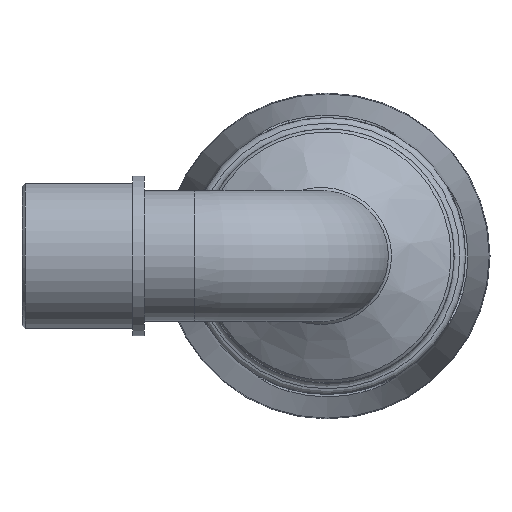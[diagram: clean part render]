
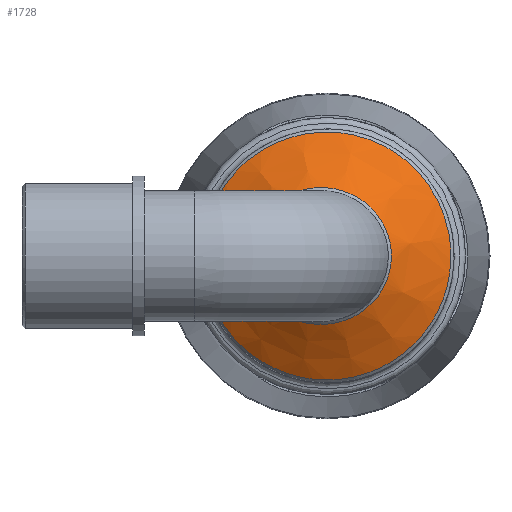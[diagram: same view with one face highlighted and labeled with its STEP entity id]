
A CAD part, left-side view. The second image highlights one B-rep face of the part: STEP entity #1728.
In plain terms, the highlighted free-form (B-spline) face has degree [3, 3] with [4, 17] control points.
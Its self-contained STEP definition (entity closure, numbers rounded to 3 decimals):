
#148=LINE('',#2713,#229);
#229=VECTOR('',#2045,7.603);
#311=FACE_OUTER_BOUND('',#421,.T.);
#421=EDGE_LOOP('',(#1129,#1130,#1131,#1132));
#558=B_SPLINE_CURVE_WITH_KNOTS('',3,(#2628,#2629,#2630,#2631,#2632,#2633,
#2634,#2635,#2636,#2637,#2638,#2639,#2640,#2641,#2642,#2643),
 .UNSPECIFIED.,.T.,.F.,(4,1,1,1,1,1,1,1,1,1,1,1,1,4),(-3.142,
-2.917,-2.693,-2.244,-1.346,
-0.748,-0.449,0.15,0.449,
0.898,1.346,2.244,2.693,3.142),
 .UNSPECIFIED.);
#559=B_SPLINE_CURVE_WITH_KNOTS('',3,(#2714,#2715,#2716,#2717,#2718,#2719,
#2720,#2721,#2722,#2723,#2724,#2725,#2726,#2727,#2728,#2729,#2730),
 .UNSPECIFIED.,.T.,.F.,(4,1,1,1,1,1,1,1,1,1,1,1,1,1,4),(1.571,
2.02,2.468,2.917,3.366,3.665,
4.264,4.563,5.161,5.61,6.059,
6.508,6.956,7.405,7.854),
 .UNSPECIFIED.);
#720=VERTEX_POINT('',#2609);
#722=VERTEX_POINT('',#2712);
#883=EDGE_CURVE('',#720,#720,#558,.T.);
#884=EDGE_CURVE('',#722,#720,#148,.T.);
#885=EDGE_CURVE('',#722,#722,#559,.T.);
#1129=ORIENTED_EDGE('',*,*,#883,.F.);
#1130=ORIENTED_EDGE('',*,*,#884,.F.);
#1131=ORIENTED_EDGE('',*,*,#885,.F.);
#1132=ORIENTED_EDGE('',*,*,#884,.T.);
#1614=B_SPLINE_SURFACE_WITH_KNOTS('',3,3,((#2644,#2645,#2646,#2647,#2648,
#2649,#2650,#2651,#2652,#2653,#2654,#2655,#2656,#2657,#2658,#2659,#2660),
(#2661,#2662,#2663,#2664,#2665,#2666,#2667,#2668,#2669,#2670,#2671,#2672,
#2673,#2674,#2675,#2676,#2677),(#2678,#2679,#2680,#2681,#2682,#2683,#2684,
#2685,#2686,#2687,#2688,#2689,#2690,#2691,#2692,#2693,#2694),(#2695,#2696,
#2697,#2698,#2699,#2700,#2701,#2702,#2703,#2704,#2705,#2706,#2707,#2708,
#2709,#2710,#2711)),.UNSPECIFIED.,.F.,.T.,.F.,(4,4),(4,1,1,1,1,1,1,1,1,
1,1,1,1,1,4),(0.05,0.961),(-9.425,
-8.976,-8.527,-8.078,-7.63,
-7.031,-6.732,-6.433,-5.834,
-5.386,-4.937,-4.488,-4.039,
-3.59,-3.142),.UNSPECIFIED.);
#1728=ADVANCED_FACE('',(#311),#1614,.T.);
#2045=DIRECTION('',(-0.58,-0.814,0.));
#2609=CARTESIAN_POINT('',(14.398,11.745,0.));
#2628=CARTESIAN_POINT('Ctrl Pts',(14.397,11.745,0.002));
#2629=CARTESIAN_POINT('Ctrl Pts',(14.398,11.746,-0.756));
#2630=CARTESIAN_POINT('Ctrl Pts',(14.369,11.533,-2.277));
#2631=CARTESIAN_POINT('Ctrl Pts',(14.24,10.349,-5.087));
#2632=CARTESIAN_POINT('Ctrl Pts',(13.968,6.701,-9.112));
#2633=CARTESIAN_POINT('Ctrl Pts',(13.877,-0.283,-10.776));
#2634=CARTESIAN_POINT('Ctrl Pts',(13.866,-5.943,-7.81));
#2635=CARTESIAN_POINT('Ctrl Pts',(13.863,-8.965,-3.642));
#2636=CARTESIAN_POINT('Ctrl Pts',(13.863,-9.639,0.561));
#2637=CARTESIAN_POINT('Ctrl Pts',(13.864,-8.193,4.97));
#2638=CARTESIAN_POINT('Ctrl Pts',(13.866,-5.496,8.138));
#2639=CARTESIAN_POINT('Ctrl Pts',(13.884,0.27,10.648));
#2640=CARTESIAN_POINT('Ctrl Pts',(13.967,6.689,9.106));
#2641=CARTESIAN_POINT('Ctrl Pts',(14.28,10.879,4.519));
#2642=CARTESIAN_POINT('Ctrl Pts',(14.396,11.743,1.516));
#2643=CARTESIAN_POINT('Ctrl Pts',(14.397,11.745,0.002));
#2644=CARTESIAN_POINT('Ctrl Pts',(18.831,17.964,0.));
#2645=CARTESIAN_POINT('Ctrl Pts',(18.831,17.964,2.686));
#2646=CARTESIAN_POINT('Ctrl Pts',(18.827,16.724,8.059));
#2647=CARTESIAN_POINT('Ctrl Pts',(18.821,11.548,14.492));
#2648=CARTESIAN_POINT('Ctrl Pts',(18.82,4.116,18.037));
#2649=CARTESIAN_POINT('Ctrl Pts',(18.82,-5.035,18.03));
#2650=CARTESIAN_POINT('Ctrl Pts',(18.821,-12.288,13.833));
#2651=CARTESIAN_POINT('Ctrl Pts',(18.821,-16.329,7.863));
#2652=CARTESIAN_POINT('Ctrl Pts',(18.821,-18.471,0.981));
#2653=CARTESIAN_POINT('Ctrl Pts',(18.821,-17.221,-7.302));
#2654=CARTESIAN_POINT('Ctrl Pts',(18.821,-11.517,-14.444));
#2655=CARTESIAN_POINT('Ctrl Pts',(18.82,-4.118,-18.024));
#2656=CARTESIAN_POINT('Ctrl Pts',(18.82,4.115,-18.04));
#2657=CARTESIAN_POINT('Ctrl Pts',(18.821,11.549,-14.491));
#2658=CARTESIAN_POINT('Ctrl Pts',(18.827,16.723,-8.059));
#2659=CARTESIAN_POINT('Ctrl Pts',(18.831,17.964,-2.686));
#2660=CARTESIAN_POINT('Ctrl Pts',(18.831,17.964,0.));
#2661=CARTESIAN_POINT('Ctrl Pts',(17.239,15.731,0.));
#2662=CARTESIAN_POINT('Ctrl Pts',(17.239,15.731,2.35));
#2663=CARTESIAN_POINT('Ctrl Pts',(17.209,14.554,7.05));
#2664=CARTESIAN_POINT('Ctrl Pts',(17.168,9.904,12.474));
#2665=CARTESIAN_POINT('Ctrl Pts',(17.159,3.485,15.354));
#2666=CARTESIAN_POINT('Ctrl Pts',(17.16,-4.27,15.226));
#2667=CARTESIAN_POINT('Ctrl Pts',(17.165,-10.346,11.639));
#2668=CARTESIAN_POINT('Ctrl Pts',(17.168,-13.721,6.606));
#2669=CARTESIAN_POINT('Ctrl Pts',(17.169,-15.507,0.822));
#2670=CARTESIAN_POINT('Ctrl Pts',(17.168,-14.466,-6.128));
#2671=CARTESIAN_POINT('Ctrl Pts',(17.165,-9.702,-12.157));
#2672=CARTESIAN_POINT('Ctrl Pts',(17.16,-3.493,-15.233));
#2673=CARTESIAN_POINT('Ctrl Pts',(17.159,3.484,-15.357));
#2674=CARTESIAN_POINT('Ctrl Pts',(17.168,9.904,-12.473));
#2675=CARTESIAN_POINT('Ctrl Pts',(17.209,14.554,-7.051));
#2676=CARTESIAN_POINT('Ctrl Pts',(17.239,15.731,-2.35));
#2677=CARTESIAN_POINT('Ctrl Pts',(17.239,15.731,0.));
#2678=CARTESIAN_POINT('Ctrl Pts',(15.647,13.498,0.));
#2679=CARTESIAN_POINT('Ctrl Pts',(15.647,13.499,2.014));
#2680=CARTESIAN_POINT('Ctrl Pts',(15.591,12.384,6.042));
#2681=CARTESIAN_POINT('Ctrl Pts',(15.515,8.259,10.456));
#2682=CARTESIAN_POINT('Ctrl Pts',(15.498,2.853,12.672));
#2683=CARTESIAN_POINT('Ctrl Pts',(15.501,-3.505,12.422));
#2684=CARTESIAN_POINT('Ctrl Pts',(15.51,-8.403,9.444));
#2685=CARTESIAN_POINT('Ctrl Pts',(15.514,-11.113,5.348));
#2686=CARTESIAN_POINT('Ctrl Pts',(15.517,-12.543,0.663));
#2687=CARTESIAN_POINT('Ctrl Pts',(15.515,-11.711,-4.955));
#2688=CARTESIAN_POINT('Ctrl Pts',(15.509,-7.887,-9.869));
#2689=CARTESIAN_POINT('Ctrl Pts',(15.5,-2.869,-12.443));
#2690=CARTESIAN_POINT('Ctrl Pts',(15.498,2.852,-12.674));
#2691=CARTESIAN_POINT('Ctrl Pts',(15.515,8.259,-10.456));
#2692=CARTESIAN_POINT('Ctrl Pts',(15.591,12.384,-6.042));
#2693=CARTESIAN_POINT('Ctrl Pts',(15.647,13.498,-2.014));
#2694=CARTESIAN_POINT('Ctrl Pts',(15.647,13.498,0.));
#2695=CARTESIAN_POINT('Ctrl Pts',(14.055,11.266,0.));
#2696=CARTESIAN_POINT('Ctrl Pts',(14.055,11.266,1.678));
#2697=CARTESIAN_POINT('Ctrl Pts',(13.973,10.214,5.033));
#2698=CARTESIAN_POINT('Ctrl Pts',(13.861,6.614,8.438));
#2699=CARTESIAN_POINT('Ctrl Pts',(13.837,2.221,9.99));
#2700=CARTESIAN_POINT('Ctrl Pts',(13.841,-2.74,9.618));
#2701=CARTESIAN_POINT('Ctrl Pts',(13.854,-6.461,7.249));
#2702=CARTESIAN_POINT('Ctrl Pts',(13.861,-8.505,4.091));
#2703=CARTESIAN_POINT('Ctrl Pts',(13.864,-9.578,0.505));
#2704=CARTESIAN_POINT('Ctrl Pts',(13.862,-8.955,-3.782));
#2705=CARTESIAN_POINT('Ctrl Pts',(13.853,-6.072,-7.582));
#2706=CARTESIAN_POINT('Ctrl Pts',(13.841,-2.244,-9.652));
#2707=CARTESIAN_POINT('Ctrl Pts',(13.837,2.22,-9.991));
#2708=CARTESIAN_POINT('Ctrl Pts',(13.862,6.615,-8.438));
#2709=CARTESIAN_POINT('Ctrl Pts',(13.973,10.214,-5.033));
#2710=CARTESIAN_POINT('Ctrl Pts',(14.055,11.266,-1.678));
#2711=CARTESIAN_POINT('Ctrl Pts',(14.055,11.266,0.));
#2712=CARTESIAN_POINT('',(18.811,17.936,0.));
#2713=CARTESIAN_POINT('',(19.093,18.33,0.));
#2714=CARTESIAN_POINT('Ctrl Pts',(18.811,17.937,0.));
#2715=CARTESIAN_POINT('Ctrl Pts',(18.811,17.936,2.683));
#2716=CARTESIAN_POINT('Ctrl Pts',(18.812,16.703,8.05));
#2717=CARTESIAN_POINT('Ctrl Pts',(18.814,11.543,14.48));
#2718=CARTESIAN_POINT('Ctrl Pts',(18.816,4.11,18.037));
#2719=CARTESIAN_POINT('Ctrl Pts',(18.818,-3.196,18.018));
#2720=CARTESIAN_POINT('Ctrl Pts',(18.82,-10.755,15.051));
#2721=CARTESIAN_POINT('Ctrl Pts',(18.821,-15.807,9.597));
#2722=CARTESIAN_POINT('Ctrl Pts',(18.821,-18.465,0.976));
#2723=CARTESIAN_POINT('Ctrl Pts',(18.821,-17.225,-7.298));
#2724=CARTESIAN_POINT('Ctrl Pts',(18.82,-11.515,-14.445));
#2725=CARTESIAN_POINT('Ctrl Pts',(18.819,-4.119,-18.02));
#2726=CARTESIAN_POINT('Ctrl Pts',(18.816,4.114,-18.035));
#2727=CARTESIAN_POINT('Ctrl Pts',(18.814,11.541,-14.482));
#2728=CARTESIAN_POINT('Ctrl Pts',(18.812,16.703,-8.049));
#2729=CARTESIAN_POINT('Ctrl Pts',(18.811,17.937,-2.683));
#2730=CARTESIAN_POINT('Ctrl Pts',(18.811,17.937,0.));
